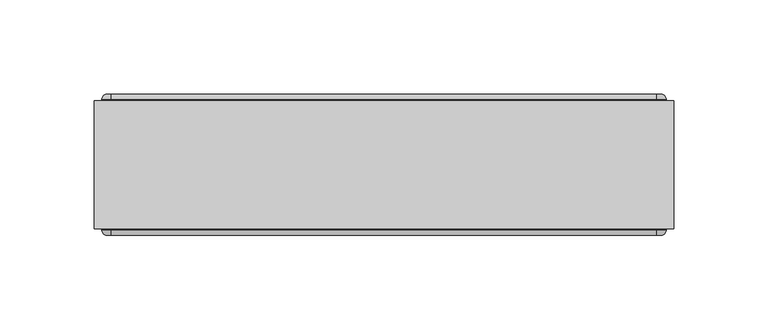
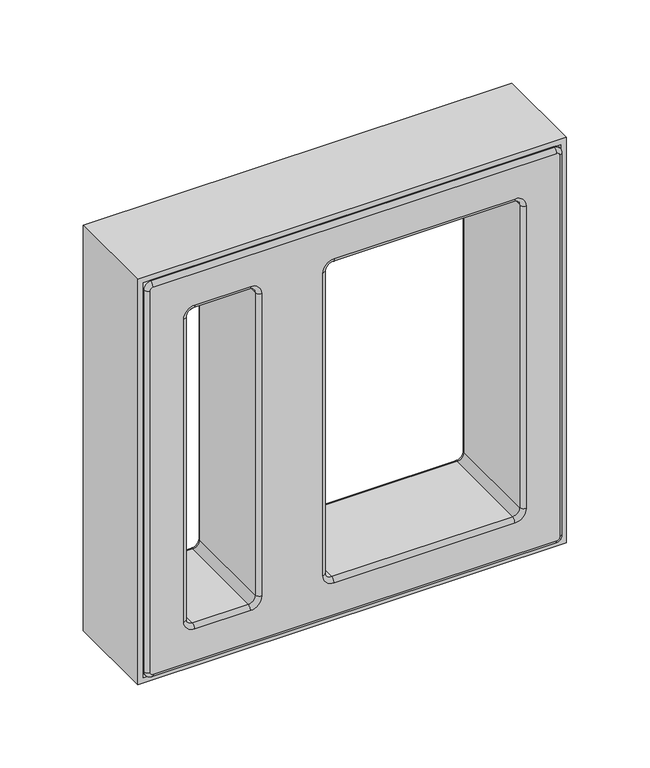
"""IFC4 building model written with IfcOpenShell, lengths in millimetres: proxy geometry, PORTOBELLO - ELEMENTO ASSIM BRANCO 30X30 (COBOGO) : ASSIM BRANCO."""

from ifc_helpers import new_model, si_unit, point, frame, origin, place, context, project, spatial, polyline, circle_curve, ellipse_curve, trimmed, outline, extrude, source, transform, mapped, element, save
from ifc_brep_helpers import plane_surface, cylinder_surface, revolved_surface, advanced_brep


def generic_models_55a6a26f(model_context):
    return source(origin(), model_context, "Body", "SolidModel", [
        advanced_brep(
        [(145.0, -37.5, 7.0), (147.0, -37.5, 9.0), (147.0, -37.5, 299.0), (145.0, -37.5, 301.0), (-145.0, -37.5, 301.0), (-147.0, -37.5, 299.0), (-147.0, -37.5, 9.0), (-145.0, -37.5, 7.0), (-67.0, -37.5, 39.0), (-75.0, -37.5, 31.0), (-115.0, -37.5, 31.0), (-123.0, -37.5, 39.0), (-123.0, -37.5, 269.0), (-115.0, -37.5, 277.0), (-75.0, -37.5, 277.0), (-67.0, -37.5, 269.0), (123.0, -37.5, 39.0), (115.0, -37.5, 31.0), (-15.0, -37.5, 31.0), (-23.0, -37.5, 39.0), (-23.0, -37.5, 269.0), (-15.0, -37.5, 277.0), (115.0, -37.5, 277.0), (123.0, -37.5, 269.0), (147.0, 37.5, 9.0), (145.0, 37.5, 7.0), (-145.0, 37.5, 7.0), (-147.0, 37.5, 9.0), (-147.0, 37.5, 299.0), (-145.0, 37.5, 301.0), (145.0, 37.5, 301.0), (147.0, 37.5, 299.0), (-75.0, 37.5, 31.0), (-67.0, 37.5, 39.0), (-67.0, 37.5, 269.0), (-75.0, 37.5, 277.0), (-115.0, 37.5, 277.0), (-123.0, 37.5, 269.0), (-123.0, 37.5, 39.0), (-115.0, 37.5, 31.0), (115.0, 37.5, 31.0), (123.0, 37.5, 39.0), (123.0, 37.5, 269.0), (115.0, 37.5, 277.0), (-15.0, 37.5, 277.0), (-23.0, 37.5, 269.0), (-23.0, 37.5, 39.0), (-15.0, 37.5, 31.0), (145.0, -34.5000014, 4.0), (145.0, 34.5, 4.0), (150.0, 34.5, 9.0), (150.0, -34.5000025, 9.0), (150.0, 34.5, 299.0), (150.0, -34.5, 299.0), (145.0, 34.5, 304.0), (145.0, -34.5000025, 304.0), (-145.0, 34.5, 304.0), (-145.0, -34.5, 304.0), (-150.0, 34.5, 299.0), (-150.0, -34.5000025, 299.0), (-150.0, 34.5, 9.0), (-150.0, -34.5, 9.0), (-145.0, 34.5, 4.0), (-145.0, -34.5000025, 4.0), (120.0, -34.5000025, 269.0), (120.0, 34.5, 269.0), (120.0, 34.5, 39.0), (120.0, -34.5000016, 39.0), (115.0, 34.5, 34.0), (115.0, -34.5000016, 34.0), (-15.0, 34.5, 34.0), (-15.0, -34.5, 34.0), (-20.0, 34.5, 39.0), (-20.0, -34.5000016, 39.0), (-20.0, 34.5, 269.0), (-20.0, -34.5, 269.0), (-15.0, 34.5, 274.0), (-15.0, -34.5000017, 274.0), (115.0, 34.5, 274.0), (115.0, -34.5, 274.0), (-120.0, -34.5000026, 39.0), (-120.0, 34.5, 39.0), (-120.0, 34.5, 269.0), (-120.0, -34.5, 269.0), (-115.0, 34.5, 274.0), (-115.0, -34.5000017, 274.0), (-75.0, 34.5, 274.0), (-75.0, -34.5, 274.0), (-70.0, 34.5, 269.0), (-70.0, -34.5000018, 269.0), (-70.0, 34.5, 39.0), (-70.0, -34.5000017, 39.0), (-75.0, 34.5, 34.0), (-75.0, -34.5000017, 34.0), (-115.0, 34.5, 34.0), (-115.0, -34.5, 34.0)],
        [
            (0, 1, circle_curve(frame((145.0, -37.5, 9.0), z_axis=(0.0, -1.0, 0.0), x_axis=(0.0, 0.0, -1.0)), 2.0)),
            (1, 2),
            (2, 3, circle_curve(frame((145.0, -37.5, 299.0), z_axis=(0.0, -1.0, 0.0), x_axis=(1.0, 0.0, 0.0)), 2.0)),
            (3, 4),
            (4, 5, circle_curve(frame((-145.0, -37.5, 299.0), z_axis=(0.0, -1.0, 0.0), x_axis=(0.0, 0.0, 1.0)), 2.0)),
            (5, 6),
            (6, 7, circle_curve(frame((-145.0, -37.5, 9.0), z_axis=(0.0, -1.0, 0.0), x_axis=(-1.0, 0.0, 0.0)), 2.0)),
            (7, 0),
            (8, 9, circle_curve(frame((-75.0, -37.5, 39.0), z_axis=(0.0, 1.0, 0.0), x_axis=(1.0, 0.0, 0.0)), 8.0)),
            (9, 10),
            (10, 11, circle_curve(frame((-115.0, -37.5, 39.0), z_axis=(0.0, 1.0, 0.0), x_axis=(0.0, 0.0, -1.0)), 8.0)),
            (11, 12),
            (12, 13, circle_curve(frame((-115.0, -37.5, 269.0), z_axis=(0.0, 1.0, 0.0), x_axis=(-1.0, 0.0, 0.0)), 8.0)),
            (13, 14),
            (14, 15, circle_curve(frame((-75.0, -37.5, 269.0), z_axis=(0.0, 1.0, 0.0), x_axis=(0.0, 0.0, 1.0)), 8.0)),
            (15, 8),
            (16, 17, circle_curve(frame((115.0, -37.5, 39.0), z_axis=(0.0, 1.0, 0.0), x_axis=(1.0, 0.0, 0.0)), 8.0)),
            (17, 18),
            (18, 19, circle_curve(frame((-15.0, -37.5, 39.0), z_axis=(0.0, 1.0, 0.0), x_axis=(0.0, 0.0, -1.0)), 8.0)),
            (19, 20),
            (20, 21, circle_curve(frame((-15.0, -37.5, 269.0), z_axis=(0.0, 1.0, 0.0), x_axis=(-1.0, 0.0, 0.0)), 8.0)),
            (21, 22),
            (22, 23, circle_curve(frame((115.0, -37.5, 269.0), z_axis=(0.0, 1.0, 0.0), x_axis=(0.0, 0.0, 1.0)), 8.0)),
            (23, 16),
            (24, 25, circle_curve(frame((145.0, 37.5, 9.0), z_axis=(0.0, 1.0, 0.0), x_axis=(0.0, 0.0, -1.0)), 2.0)),
            (25, 26),
            (26, 27, circle_curve(frame((-145.0, 37.5, 9.0), z_axis=(0.0, 1.0, 0.0), x_axis=(-1.0, 0.0, 0.0)), 2.0)),
            (27, 28),
            (28, 29, circle_curve(frame((-145.0, 37.5, 299.0), z_axis=(0.0, 1.0, 0.0), x_axis=(0.0, 0.0, 1.0)), 2.0)),
            (29, 30),
            (30, 31, circle_curve(frame((145.0, 37.5, 299.0), z_axis=(0.0, 1.0, 0.0), x_axis=(1.0, 0.0, 0.0)), 2.0)),
            (31, 24),
            (32, 33, circle_curve(frame((-75.0, 37.5, 39.0), z_axis=(0.0, -1.0, 0.0), x_axis=(1.0, 0.0, 0.0)), 8.0)),
            (33, 34),
            (34, 35, circle_curve(frame((-75.0, 37.5, 269.0), z_axis=(0.0, -1.0, 0.0), x_axis=(0.0, 0.0, 1.0)), 8.0)),
            (35, 36),
            (36, 37, circle_curve(frame((-115.0, 37.5, 269.0), z_axis=(0.0, -1.0, 0.0), x_axis=(-1.0, 0.0, 0.0)), 8.0)),
            (37, 38),
            (38, 39, circle_curve(frame((-115.0, 37.5, 39.0), z_axis=(0.0, -1.0, 0.0), x_axis=(0.0, 0.0, -1.0)), 8.0)),
            (39, 32),
            (40, 41, circle_curve(frame((115.0, 37.5, 39.0), z_axis=(0.0, -1.0, 0.0), x_axis=(1.0, 0.0, 0.0)), 8.0)),
            (41, 42),
            (42, 43, circle_curve(frame((115.0, 37.5, 269.0), z_axis=(0.0, -1.0, 0.0), x_axis=(0.0, 0.0, 1.0)), 8.0)),
            (43, 44),
            (44, 45, circle_curve(frame((-15.0, 37.5, 269.0), z_axis=(0.0, -1.0, 0.0), x_axis=(-1.0, 0.0, 0.0)), 8.0)),
            (45, 46),
            (46, 47, circle_curve(frame((-15.0, 37.5, 39.0), z_axis=(0.0, -1.0, 0.0), x_axis=(0.0, 0.0, -1.0)), 8.0)),
            (47, 40),
            (48, 49),
            (49, 50, circle_curve(frame((145.0, 34.5, 9.0), z_axis=(0.0, -1.0, 0.0), x_axis=(-1.0, 0.0, 0.0)), 5.0)),
            (50, 51),
            (51, 48, circle_curve(frame((145.0, -34.5, 9.0), z_axis=(0.0, 1.0, 0.0), x_axis=(-1.0, 0.0, 0.0)), 5.0)),
            (50, 52),
            (52, 53),
            (53, 51),
            (52, 54, circle_curve(frame((145.0, 34.5, 299.0), z_axis=(0.0, -1.0, 0.0), x_axis=(-1.0, 0.0, 0.0)), 5.0)),
            (54, 55),
            (55, 53, circle_curve(frame((145.0, -34.5, 299.0), z_axis=(0.0, 1.0, 0.0), x_axis=(-1.0, 0.0, 0.0)), 5.0)),
            (54, 56),
            (56, 57),
            (57, 55),
            (56, 58, circle_curve(frame((-145.0, 34.5, 299.0), z_axis=(0.0, -1.0, 0.0), x_axis=(-1.0, 0.0, 0.0)), 5.0)),
            (58, 59),
            (59, 57, circle_curve(frame((-145.0, -34.5, 299.0), z_axis=(0.0, 1.0, 0.0), x_axis=(-1.0, 0.0, 0.0)), 5.0)),
            (58, 60),
            (60, 61),
            (61, 59),
            (60, 62, circle_curve(frame((-145.0, 34.5, 9.0), z_axis=(0.0, -1.0, 0.0), x_axis=(-1.0, 0.0, 0.0)), 5.0)),
            (62, 63),
            (63, 61, circle_curve(frame((-145.0, -34.5, 9.0), z_axis=(0.0, 1.0, 0.0), x_axis=(-1.0, 0.0, 0.0)), 5.0)),
            (48, 63),
            (62, 49),
            (64, 65),
            (65, 66),
            (66, 67),
            (67, 64),
            (66, 68, circle_curve(frame((115.0, 34.5, 39.0), z_axis=(0.0, 1.0, 0.0), x_axis=(-1.0, 0.0, 0.0)), 5.0)),
            (68, 69),
            (69, 67, circle_curve(frame((115.0, -34.5, 39.0), z_axis=(0.0, -1.0, 0.0), x_axis=(-1.0, 0.0, 0.0)), 5.0)),
            (68, 70),
            (70, 71),
            (71, 69),
            (70, 72, circle_curve(frame((-15.0, 34.5, 39.0), z_axis=(0.0, 1.0, 0.0), x_axis=(-1.0, 0.0, 0.0)), 5.0)),
            (72, 73),
            (73, 71, circle_curve(frame((-15.0, -34.5, 39.0), z_axis=(0.0, -1.0, 0.0), x_axis=(-1.0, 0.0, 0.0)), 5.0)),
            (72, 74),
            (74, 75),
            (75, 73),
            (74, 76, circle_curve(frame((-15.0, 34.5, 269.0), z_axis=(0.0, 1.0, 0.0), x_axis=(-1.0, 0.0, 0.0)), 5.0)),
            (76, 77),
            (77, 75, circle_curve(frame((-15.0, -34.5, 269.0), z_axis=(0.0, -1.0, 0.0), x_axis=(-1.0, 0.0, 0.0)), 5.0)),
            (76, 78),
            (78, 79),
            (79, 77),
            (64, 79, circle_curve(frame((115.0, -34.5, 269.0), z_axis=(0.0, -1.0, 0.0), x_axis=(-1.0, 0.0, 0.0)), 5.0)),
            (78, 65, circle_curve(frame((115.0, 34.5, 269.0), z_axis=(0.0, 1.0, 0.0), x_axis=(-1.0, 0.0, 0.0)), 5.0)),
            (80, 81),
            (81, 82),
            (82, 83),
            (83, 80),
            (82, 84, circle_curve(frame((-115.0, 34.5, 269.0), z_axis=(0.0, 1.0, 0.0), x_axis=(-1.0, 0.0, 0.0)), 5.0)),
            (84, 85),
            (85, 83, circle_curve(frame((-115.0, -34.5, 269.0), z_axis=(0.0, -1.0, 0.0), x_axis=(-1.0, 0.0, 0.0)), 5.0)),
            (84, 86),
            (86, 87),
            (87, 85),
            (86, 88, circle_curve(frame((-75.0, 34.5, 269.0), z_axis=(0.0, 1.0, 0.0), x_axis=(-1.0, 0.0, 0.0)), 5.0)),
            (88, 89),
            (89, 87, circle_curve(frame((-75.0, -34.5, 269.0), z_axis=(0.0, -1.0, 0.0), x_axis=(-1.0, 0.0, 0.0)), 5.0)),
            (88, 90),
            (90, 91),
            (91, 89),
            (90, 92, circle_curve(frame((-75.0, 34.5, 39.0), z_axis=(0.0, 1.0, 0.0), x_axis=(-1.0, 0.0, 0.0)), 5.0)),
            (92, 93),
            (93, 91, circle_curve(frame((-75.0, -34.5, 39.0), z_axis=(0.0, -1.0, 0.0), x_axis=(-1.0, 0.0, 0.0)), 5.0)),
            (92, 94),
            (94, 95),
            (95, 93),
            (80, 95, circle_curve(frame((-115.0, -34.5, 39.0), z_axis=(0.0, -1.0, 0.0), x_axis=(-1.0, 0.0, 0.0)), 5.0)),
            (94, 81, circle_curve(frame((-115.0, 34.5, 39.0), z_axis=(0.0, 1.0, 0.0), x_axis=(-1.0, 0.0, 0.0)), 5.0)),
            (51, 1, circle_curve(frame((147.0, -34.5, 9.0), z_axis=(0.0, 0.0, -1.0), x_axis=(0.0, -1.0, 0.0)), 3.0)),
            (0, 48, circle_curve(frame((145.0, -34.5, 7.0), z_axis=(1.0, 0.0, 0.0), x_axis=(0.0, -1.0, 0.0)), 3.0)),
            (53, 2, circle_curve(frame((147.0, -34.5, 299.0), z_axis=(0.0, 0.0, -1.0), x_axis=(0.0, -1.0, 0.0)), 3.0)),
            (55, 3, circle_curve(frame((145.0, -34.5, 301.0), z_axis=(1.0, 0.0, 0.0), x_axis=(0.0, -1.0, 0.0)), 3.0)),
            (57, 4, circle_curve(frame((-145.0, -34.5, 301.0), z_axis=(1.0, 0.0, 0.0), x_axis=(0.0, -1.0, 0.0)), 3.0)),
            (59, 5, circle_curve(frame((-147.0, -34.5, 299.0), z_axis=(0.0, 0.0, 1.0), x_axis=(0.0, -1.0, 0.0)), 3.0)),
            (61, 6, circle_curve(frame((-147.0, -34.5, 9.0), z_axis=(0.0, 0.0, 1.0), x_axis=(0.0, -1.0, 0.0)), 3.0)),
            (63, 7, circle_curve(frame((-145.0, -34.5, 7.0), z_axis=(-1.0, 0.0, 0.0), x_axis=(0.0, -1.0, 0.0)), 3.0)),
            (24, 50, circle_curve(frame((147.0, 34.5, 9.0), z_axis=(0.0, 0.0, -1.0), x_axis=(0.0, -1.0, 0.0)), 3.0)),
            (49, 25, circle_curve(frame((145.0, 34.5, 7.0), z_axis=(1.0, 0.0, 0.0), x_axis=(0.0, -1.0, 0.0)), 3.0)),
            (31, 52, circle_curve(frame((147.0, 34.5, 299.0), z_axis=(0.0, 0.0, -1.0), x_axis=(0.0, -1.0, 0.0)), 3.0)),
            (30, 54, circle_curve(frame((145.0, 34.5, 301.0), z_axis=(1.0, 0.0, 0.0), x_axis=(0.0, -1.0, 0.0)), 3.0)),
            (29, 56, circle_curve(frame((-145.0, 34.5, 301.0), z_axis=(1.0, 0.0, 0.0), x_axis=(0.0, -1.0, 0.0)), 3.0)),
            (28, 58, circle_curve(frame((-147.0, 34.5, 299.0), z_axis=(0.0, 0.0, 1.0), x_axis=(0.0, -1.0, 0.0)), 3.0)),
            (27, 60, circle_curve(frame((-147.0, 34.5, 9.0), z_axis=(0.0, 0.0, 1.0), x_axis=(0.0, -1.0, 0.0)), 3.0)),
            (26, 62, circle_curve(frame((-145.0, 34.5, 7.0), z_axis=(-1.0, 0.0, 0.0), x_axis=(0.0, -1.0, 0.0)), 3.0)),
            (93, 9, circle_curve(frame((-75.0, -34.5, 31.0), z_axis=(1.0, 0.0, 0.0), x_axis=(0.0, 0.0, 1.0)), 3.0)),
            (8, 91, circle_curve(frame((-67.0, -34.5, 39.0), z_axis=(0.0, 0.0, -1.0), x_axis=(-1.0, 0.0, 0.0)), 3.0)),
            (32, 92, circle_curve(frame((-75.0, 34.5, 31.0), z_axis=(1.0, 0.0, 0.0), x_axis=(0.0, 0.0, 1.0)), 3.0)),
            (90, 33, circle_curve(frame((-67.0, 34.5, 39.0), z_axis=(0.0, 0.0, -1.0), x_axis=(-1.0, 0.0, 0.0)), 3.0)),
            (95, 10, circle_curve(frame((-115.0, -34.5, 31.0), z_axis=(1.0, 0.0, 0.0), x_axis=(0.0, 0.0, 1.0)), 3.0)),
            (39, 94, circle_curve(frame((-115.0, 34.5, 31.0), z_axis=(1.0, 0.0, 0.0), x_axis=(0.0, 0.0, 1.0)), 3.0)),
            (80, 11, circle_curve(frame((-123.0, -34.5, 39.0), z_axis=(0.0, 0.0, -1.0), x_axis=(1.0, 0.0, 0.0)), 3.0)),
            (38, 81, circle_curve(frame((-123.0, 34.5, 39.0), z_axis=(0.0, 0.0, -1.0), x_axis=(1.0, 0.0, 0.0)), 3.0)),
            (83, 12, circle_curve(frame((-123.0, -34.5, 269.0), z_axis=(0.0, 0.0, -1.0), x_axis=(1.0, 0.0, 0.0)), 3.0)),
            (37, 82, circle_curve(frame((-123.0, 34.5, 269.0), z_axis=(0.0, 0.0, -1.0), x_axis=(1.0, 0.0, 0.0)), 3.0)),
            (85, 13, circle_curve(frame((-115.0, -34.5, 277.0), z_axis=(-1.0, 0.0, 0.0), x_axis=(0.0, 0.0, -1.0)), 3.0)),
            (36, 84, circle_curve(frame((-115.0, 34.5, 277.0), z_axis=(-1.0, 0.0, 0.0), x_axis=(0.0, 0.0, -1.0)), 3.0)),
            (87, 14, circle_curve(frame((-75.0, -34.5, 277.0), z_axis=(-1.0, 0.0, 0.0), x_axis=(0.0, 0.0, -1.0)), 3.0)),
            (35, 86, circle_curve(frame((-75.0, 34.5, 277.0), z_axis=(-1.0, 0.0, 0.0), x_axis=(0.0, 0.0, -1.0)), 3.0)),
            (89, 15, circle_curve(frame((-67.0, -34.5, 269.0), z_axis=(0.0, 0.0, 1.0), x_axis=(-1.0, 0.0, 0.0)), 3.0)),
            (34, 88, circle_curve(frame((-67.0, 34.5, 269.0), z_axis=(0.0, 0.0, 1.0), x_axis=(-1.0, 0.0, 0.0)), 3.0)),
            (69, 17, circle_curve(frame((115.0, -34.5, 31.0), z_axis=(1.0, 0.0, 0.0), x_axis=(0.0, 0.0, 1.0)), 3.0)),
            (16, 67, circle_curve(frame((123.0, -34.5, 39.0), z_axis=(0.0, 0.0, -1.0), x_axis=(-1.0, 0.0, 0.0)), 3.0)),
            (71, 18, circle_curve(frame((-15.0, -34.5, 31.0), z_axis=(1.0, 0.0, 0.0), x_axis=(0.0, 0.0, 1.0)), 3.0)),
            (73, 19, circle_curve(frame((-23.0, -34.5, 39.0), z_axis=(0.0, 0.0, -1.0), x_axis=(1.0, 0.0, 0.0)), 3.0)),
            (75, 20, circle_curve(frame((-23.0, -34.5, 269.0), z_axis=(0.0, 0.0, -1.0), x_axis=(1.0, 0.0, 0.0)), 3.0)),
            (77, 21, circle_curve(frame((-15.0, -34.5, 277.0), z_axis=(-1.0, 0.0, 0.0), x_axis=(0.0, 0.0, -1.0)), 3.0)),
            (79, 22, circle_curve(frame((115.0, -34.5, 277.0), z_axis=(-1.0, 0.0, 0.0), x_axis=(0.0, 0.0, -1.0)), 3.0)),
            (64, 23, circle_curve(frame((123.0, -34.5, 269.0), z_axis=(0.0, 0.0, 1.0), x_axis=(-1.0, 0.0, 0.0)), 3.0)),
            (40, 68, circle_curve(frame((115.0, 34.5, 31.0), z_axis=(1.0, 0.0, 0.0), x_axis=(0.0, 0.0, 1.0)), 3.0)),
            (66, 41, circle_curve(frame((123.0, 34.5, 39.0), z_axis=(0.0, 0.0, -1.0), x_axis=(-1.0, 0.0, 0.0)), 3.0)),
            (47, 70, circle_curve(frame((-15.0, 34.5, 31.0), z_axis=(1.0, 0.0, 0.0), x_axis=(0.0, 0.0, 1.0)), 3.0)),
            (46, 72, circle_curve(frame((-23.0, 34.5, 39.0), z_axis=(0.0, 0.0, -1.0), x_axis=(1.0, 0.0, 0.0)), 3.0)),
            (45, 74, circle_curve(frame((-23.0, 34.5, 269.0), z_axis=(0.0, 0.0, -1.0), x_axis=(1.0, 0.0, 0.0)), 3.0)),
            (44, 76, circle_curve(frame((-15.0, 34.5, 277.0), z_axis=(-1.0, 0.0, 0.0), x_axis=(0.0, 0.0, -1.0)), 3.0)),
            (43, 78, circle_curve(frame((115.0, 34.5, 277.0), z_axis=(-1.0, 0.0, 0.0), x_axis=(0.0, 0.0, -1.0)), 3.0)),
            (42, 65, circle_curve(frame((123.0, 34.5, 269.0), z_axis=(0.0, 0.0, 1.0), x_axis=(-1.0, 0.0, 0.0)), 3.0)),
        ],
        [
            plane_surface(frame((140.0, -37.5, 9.0), z_axis=(0.0, -1.0, 0.0), x_axis=(0.0, 0.0, -1.0))),
            plane_surface(frame((140.0, 37.5, 9.0), z_axis=(0.0, 1.0, 0.0), x_axis=(0.0, 0.0, 1.0))),
            cylinder_surface(frame((145.0, 37.5, 9.0), z_axis=(0.0, -1.0, 0.0), x_axis=(-1.0, 0.0, 0.0)), 5.0),
            plane_surface(frame((150.0, -37.5, 9.0), z_axis=(1.0, 0.0, 0.0), x_axis=(0.0, 1.0, 0.0))),
            cylinder_surface(frame((145.0, 37.5, 299.0), z_axis=(0.0, -1.0, 0.0), x_axis=(-1.0, 0.0, 0.0)), 5.0),
            plane_surface(frame((145.0, -37.5, 304.0), z_axis=(0.0, 0.0, 1.0), x_axis=(0.0, 1.0, 0.0))),
            cylinder_surface(frame((-145.0, 37.5, 299.0), z_axis=(0.0, -1.0, 0.0), x_axis=(-1.0, 0.0, 0.0)), 5.0),
            plane_surface(frame((-150.0, -37.5, 299.0), z_axis=(-1.0, 0.0, 0.0), x_axis=(0.0, 1.0, 0.0))),
            cylinder_surface(frame((-145.0, 37.5, 9.0), z_axis=(0.0, -1.0, 0.0), x_axis=(-1.0, 0.0, 0.0)), 5.0),
            plane_surface(frame((-145.0, -37.5, 4.0), z_axis=(0.0, 0.0, -1.0), x_axis=(0.0, 1.0, 0.0))),
            plane_surface(frame((120.0, -37.5, 269.0), z_axis=(-1.0, 0.0, 0.0), x_axis=(0.0, 1.0, 0.0))),
            revolved_surface(polyline([(110.0, 34.5, 39.0), (110.0, -34.5000016, 39.0)]), (115.0, 0.0, 39.0), (0.0, 1.0, 0.0)),
            plane_surface(frame((115.0, -37.5, 34.0), z_axis=(0.0, 0.0, 1.0), x_axis=(0.0, 1.0, 0.0))),
            revolved_surface(polyline([(-20.0, 34.5, 39.0), (-20.0, -34.5000016, 39.0)]), (-15.0, 0.0, 39.0), (0.0, 1.0, 0.0)),
            plane_surface(frame((-20.0, -37.5, 39.0), z_axis=(1.0, 0.0, 0.0), x_axis=(0.0, 1.0, 0.0))),
            revolved_surface(polyline([(-20.0, 34.5, 269.0), (-20.0, -34.5000017, 269.0)]), (-15.0, 0.0, 269.0), (0.0, 1.0, 0.0)),
            plane_surface(frame((-15.0, -37.5, 274.0), z_axis=(0.0, 0.0, -1.0), x_axis=(0.0, 1.0, 0.0))),
            revolved_surface(polyline([(110.0, 34.5, 269.0), (110.0, -34.5000025, 269.0)]), (115.0, 0.0, 269.0), (0.0, 1.0, 0.0)),
            plane_surface(frame((-120.0, -37.5, 39.0), z_axis=(1.0, 0.0, 0.0), x_axis=(0.0, 1.0, 0.0))),
            revolved_surface(polyline([(-120.0, 34.5, 269.0), (-120.0, -34.5000017, 269.0)]), (-115.0, 0.0, 269.0), (0.0, 1.0, 0.0)),
            plane_surface(frame((-115.0, -37.5, 274.0), z_axis=(0.0, 0.0, -1.0), x_axis=(0.0, 1.0, 0.0))),
            revolved_surface(polyline([(-80.0, 34.5, 269.0), (-80.0, -34.5000018, 269.0)]), (-75.0, 0.0, 269.0), (0.0, 1.0, 0.0)),
            plane_surface(frame((-70.0, -37.5, 269.0), z_axis=(-1.0, 0.0, 0.0), x_axis=(0.0, 1.0, 0.0))),
            revolved_surface(polyline([(-80.0, 34.5, 39.0), (-80.0, -34.5000017, 39.0)]), (-75.0, 0.0, 39.0), (0.0, 1.0, 0.0)),
            plane_surface(frame((-75.0, -37.5, 34.0), z_axis=(0.0, 0.0, 1.0), x_axis=(0.0, 1.0, 0.0))),
            revolved_surface(polyline([(-120.0, 34.5, 39.0), (-120.0, -34.5000026, 39.0)]), (-115.0, 0.0, 39.0), (0.0, 1.0, 0.0)),
            revolved_surface(trimmed(ellipse_curve(frame((145.0, -34.5, 7.0), z_axis=(-1.0, 0.0, 0.0), x_axis=(0.0, -1.0, 0.0)), 3.0, 3.0), [point((145.0, -34.5, 4.0))], [point((145.0, -37.5, 7.0))], True, "CARTESIAN"), (145.0, -37.5, 9.0), (0.0, -1.0, 0.0)),
            cylinder_surface(frame((147.0, -34.5, 9.0), z_axis=(0.0, 0.0, 1.0), x_axis=(0.0, -1.0, 0.0)), 3.0),
            revolved_surface(trimmed(ellipse_curve(frame((147.0, -34.5, 299.0), z_axis=(0.0, 0.0, -1.0), x_axis=(0.0, -1.0, 0.0)), 3.0, 3.0), [point((150.0, -34.5, 299.0))], [point((147.0, -37.5, 299.0))], True, "CARTESIAN"), (145.0, -37.5, 299.0), (0.0, -1.0, 0.0)),
            cylinder_surface(frame((145.0, -34.5, 301.0), z_axis=(-1.0, 0.0, 0.0), x_axis=(0.0, -1.0, 0.0)), 3.0),
            revolved_surface(trimmed(ellipse_curve(frame((-145.0, -34.5, 301.0), z_axis=(1.0, 0.0, 0.0), x_axis=(0.0, -1.0, 0.0)), 3.0, 3.0), [point((-145.0, -34.5, 304.0))], [point((-145.0, -37.5, 301.0))], True, "CARTESIAN"), (-145.0, -37.5, 299.0), (0.0, -1.0, 0.0)),
            cylinder_surface(frame((-147.0, -34.5, 299.0), z_axis=(0.0, 0.0, -1.0), x_axis=(0.0, -1.0, 0.0)), 3.0),
            revolved_surface(trimmed(ellipse_curve(frame((-147.0, -34.5, 9.0), z_axis=(0.0, 0.0, 1.0), x_axis=(0.0, -1.0, 0.0)), 3.0, 3.0), [point((-150.0, -34.5, 9.0))], [point((-147.0, -37.5, 9.0))], True, "CARTESIAN"), (-145.0, -37.5, 9.0), (0.0, -1.0, 0.0)),
            cylinder_surface(frame((-145.0, -34.5, 7.0), z_axis=(1.0, 0.0, 0.0), x_axis=(0.0, -1.0, 0.0)), 3.0),
            revolved_surface(trimmed(ellipse_curve(frame((145.0, 34.5, 7.0), z_axis=(-1.0, 0.0, 0.0), x_axis=(0.0, -1.0, 0.0)), 3.0, 3.0), [point((145.0, 37.5, 7.0))], [point((145.0, 34.5, 4.0))], True, "CARTESIAN"), (145.0, -37.5, 9.0), (0.0, -1.0, 0.0)),
            cylinder_surface(frame((147.0, 34.5, 9.0), z_axis=(0.0, 0.0, 1.0), x_axis=(0.0, -1.0, 0.0)), 3.0),
            revolved_surface(trimmed(ellipse_curve(frame((147.0, 34.5, 299.0), z_axis=(0.0, 0.0, -1.0), x_axis=(0.0, -1.0, 0.0)), 3.0, 3.0), [point((147.0, 37.5, 299.0))], [point((150.0, 34.5, 299.0))], True, "CARTESIAN"), (145.0, -37.5, 299.0), (0.0, -1.0, 0.0)),
            cylinder_surface(frame((145.0, 34.5, 301.0), z_axis=(-1.0, 0.0, 0.0), x_axis=(0.0, -1.0, 0.0)), 3.0),
            revolved_surface(trimmed(ellipse_curve(frame((-145.0, 34.5, 301.0), z_axis=(1.0, 0.0, 0.0), x_axis=(0.0, -1.0, 0.0)), 3.0, 3.0), [point((-145.0, 37.5, 301.0))], [point((-145.0, 34.5, 304.0))], True, "CARTESIAN"), (-145.0, -37.5, 299.0), (0.0, -1.0, 0.0)),
            cylinder_surface(frame((-147.0, 34.5, 299.0), z_axis=(0.0, 0.0, -1.0), x_axis=(0.0, -1.0, 0.0)), 3.0),
            revolved_surface(trimmed(ellipse_curve(frame((-147.0, 34.5, 9.0), z_axis=(0.0, 0.0, 1.0), x_axis=(0.0, -1.0, 0.0)), 3.0, 3.0), [point((-147.0, 37.5, 9.0))], [point((-150.0, 34.5, 9.0))], True, "CARTESIAN"), (-145.0, -37.5, 9.0), (0.0, -1.0, 0.0)),
            cylinder_surface(frame((-145.0, 34.5, 7.0), z_axis=(1.0, 0.0, 0.0), x_axis=(0.0, -1.0, 0.0)), 3.0),
            revolved_surface(trimmed(ellipse_curve(frame((-67.0, -34.5, 39.0), z_axis=(0.0, 0.0, 1.0), x_axis=(-1.0, 0.0, 0.0)), 3.0, 3.0), [point((-70.0, -34.5, 39.0))], [point((-67.0, -37.5, 39.0))], True, "CARTESIAN"), (-75.0, -37.5, 39.0), (0.0, 1.0, 0.0)),
            revolved_surface(trimmed(ellipse_curve(frame((-67.0, 34.5, 39.0), z_axis=(0.0, 0.0, 1.0), x_axis=(-1.0, 0.0, 0.0)), 3.0, 3.0), [point((-67.0, 37.5, 39.0))], [point((-70.0, 34.5, 39.0))], True, "CARTESIAN"), (-75.0, -37.5, 39.0), (0.0, 1.0, 0.0)),
            cylinder_surface(frame((-75.0, -34.5, 31.0), z_axis=(-1.0, 0.0, 0.0), x_axis=(0.0, 0.0, 1.0)), 3.0),
            cylinder_surface(frame((-75.0, 34.5, 31.0), z_axis=(-1.0, 0.0, 0.0), x_axis=(0.0, 0.0, 1.0)), 3.0),
            revolved_surface(trimmed(ellipse_curve(frame((-115.0, -34.5, 31.0), z_axis=(1.0, 0.0, 0.0), x_axis=(0.0, 0.0, 1.0)), 3.0, 3.0), [point((-115.0, -34.5, 34.0))], [point((-115.0, -37.5, 31.0))], True, "CARTESIAN"), (-115.0, -37.5, 39.0), (0.0, 1.0, 0.0)),
            revolved_surface(trimmed(ellipse_curve(frame((-115.0, 34.5, 31.0), z_axis=(1.0, 0.0, 0.0), x_axis=(0.0, 0.0, 1.0)), 3.0, 3.0), [point((-115.0, 37.5, 31.0))], [point((-115.0, 34.5, 34.0))], True, "CARTESIAN"), (-115.0, -37.5, 39.0), (0.0, 1.0, 0.0)),
            cylinder_surface(frame((-123.0, -34.5, 39.0), z_axis=(0.0, 0.0, 1.0), x_axis=(1.0, 0.0, 0.0)), 3.0),
            cylinder_surface(frame((-123.0, 34.5, 39.0), z_axis=(0.0, 0.0, 1.0), x_axis=(1.0, 0.0, 0.0)), 3.0),
            revolved_surface(trimmed(ellipse_curve(frame((-123.0, -34.5, 269.0), z_axis=(0.0, 0.0, -1.0), x_axis=(1.0, 0.0, 0.0)), 3.0, 3.0), [point((-120.0, -34.5, 269.0))], [point((-123.0, -37.5, 269.0))], True, "CARTESIAN"), (-115.0, -37.5, 269.0), (0.0, 1.0, 0.0)),
            revolved_surface(trimmed(ellipse_curve(frame((-123.0, 34.5, 269.0), z_axis=(0.0, 0.0, -1.0), x_axis=(1.0, 0.0, 0.0)), 3.0, 3.0), [point((-123.0, 37.5, 269.0))], [point((-120.0, 34.5, 269.0))], True, "CARTESIAN"), (-115.0, -37.5, 269.0), (0.0, 1.0, 0.0)),
            cylinder_surface(frame((-115.0, -34.5, 277.0), z_axis=(1.0, 0.0, 0.0), x_axis=(0.0, 0.0, -1.0)), 3.0),
            cylinder_surface(frame((-115.0, 34.5, 277.0), z_axis=(1.0, 0.0, 0.0), x_axis=(0.0, 0.0, -1.0)), 3.0),
            revolved_surface(trimmed(ellipse_curve(frame((-75.0, -34.5, 277.0), z_axis=(-1.0, 0.0, 0.0), x_axis=(0.0, 0.0, -1.0)), 3.0, 3.0), [point((-75.0, -34.5, 274.0))], [point((-75.0, -37.5, 277.0))], True, "CARTESIAN"), (-75.0, -37.5, 269.0), (0.0, 1.0, 0.0)),
            revolved_surface(trimmed(ellipse_curve(frame((-75.0, 34.5, 277.0), z_axis=(-1.0, 0.0, 0.0), x_axis=(0.0, 0.0, -1.0)), 3.0, 3.0), [point((-75.0, 37.5, 277.0))], [point((-75.0, 34.5, 274.0))], True, "CARTESIAN"), (-75.0, -37.5, 269.0), (0.0, 1.0, 0.0)),
            cylinder_surface(frame((-67.0, -34.5, 269.0), z_axis=(0.0, 0.0, -1.0), x_axis=(-1.0, 0.0, 0.0)), 3.0),
            cylinder_surface(frame((-67.0, 34.5, 269.0), z_axis=(0.0, 0.0, -1.0), x_axis=(-1.0, 0.0, 0.0)), 3.0),
            revolved_surface(trimmed(ellipse_curve(frame((123.0, -34.5, 39.0), z_axis=(0.0, 0.0, 1.0), x_axis=(-1.0, 0.0, 0.0)), 3.0, 3.0), [point((120.0, -34.5, 39.0))], [point((123.0, -37.5, 39.0))], True, "CARTESIAN"), (115.0, -37.5, 39.0), (0.0, 1.0, 0.0)),
            cylinder_surface(frame((115.0, -34.5, 31.0), z_axis=(-1.0, 0.0, 0.0), x_axis=(0.0, 0.0, 1.0)), 3.0),
            revolved_surface(trimmed(ellipse_curve(frame((-15.0, -34.5, 31.0), z_axis=(1.0, 0.0, 0.0), x_axis=(0.0, 0.0, 1.0)), 3.0, 3.0), [point((-15.0, -34.5, 34.0))], [point((-15.0, -37.5, 31.0))], True, "CARTESIAN"), (-15.0, -37.5, 39.0), (0.0, 1.0, 0.0)),
            cylinder_surface(frame((-23.0, -34.5, 39.0), z_axis=(0.0, 0.0, 1.0), x_axis=(1.0, 0.0, 0.0)), 3.0),
            revolved_surface(trimmed(ellipse_curve(frame((-23.0, -34.5, 269.0), z_axis=(0.0, 0.0, -1.0), x_axis=(1.0, 0.0, 0.0)), 3.0, 3.0), [point((-20.0, -34.5, 269.0))], [point((-23.0, -37.5, 269.0))], True, "CARTESIAN"), (-15.0, -37.5, 269.0), (0.0, 1.0, 0.0)),
            cylinder_surface(frame((-15.0, -34.5, 277.0), z_axis=(1.0, 0.0, 0.0), x_axis=(0.0, 0.0, -1.0)), 3.0),
            revolved_surface(trimmed(ellipse_curve(frame((115.0, -34.5, 277.0), z_axis=(-1.0, 0.0, 0.0), x_axis=(0.0, 0.0, -1.0)), 3.0, 3.0), [point((115.0, -34.5, 274.0))], [point((115.0, -37.5, 277.0))], True, "CARTESIAN"), (115.0, -37.5, 269.0), (0.0, 1.0, 0.0)),
            cylinder_surface(frame((123.0, -34.5, 269.0), z_axis=(0.0, 0.0, -1.0), x_axis=(-1.0, 0.0, 0.0)), 3.0),
            revolved_surface(trimmed(ellipse_curve(frame((123.0, 34.5, 39.0), z_axis=(0.0, 0.0, 1.0), x_axis=(-1.0, 0.0, 0.0)), 3.0, 3.0), [point((123.0, 37.5, 39.0))], [point((120.0, 34.5, 39.0))], True, "CARTESIAN"), (115.0, -37.5, 39.0), (0.0, 1.0, 0.0)),
            cylinder_surface(frame((115.0, 34.5, 31.0), z_axis=(-1.0, 0.0, 0.0), x_axis=(0.0, 0.0, 1.0)), 3.0),
            revolved_surface(trimmed(ellipse_curve(frame((-15.0, 34.5, 31.0), z_axis=(1.0, 0.0, 0.0), x_axis=(0.0, 0.0, 1.0)), 3.0, 3.0), [point((-15.0, 37.5, 31.0))], [point((-15.0, 34.5, 34.0))], True, "CARTESIAN"), (-15.0, -37.5, 39.0), (0.0, 1.0, 0.0)),
            cylinder_surface(frame((-23.0, 34.5, 39.0), z_axis=(0.0, 0.0, 1.0), x_axis=(1.0, 0.0, 0.0)), 3.0),
            revolved_surface(trimmed(ellipse_curve(frame((-23.0, 34.5, 269.0), z_axis=(0.0, 0.0, -1.0), x_axis=(1.0, 0.0, 0.0)), 3.0, 3.0), [point((-23.0, 37.5, 269.0))], [point((-20.0, 34.5, 269.0))], True, "CARTESIAN"), (-15.0, -37.5, 269.0), (0.0, 1.0, 0.0)),
            cylinder_surface(frame((-15.0, 34.5, 277.0), z_axis=(1.0, 0.0, 0.0), x_axis=(0.0, 0.0, -1.0)), 3.0),
            revolved_surface(trimmed(ellipse_curve(frame((115.0, 34.5, 277.0), z_axis=(-1.0, 0.0, 0.0), x_axis=(0.0, 0.0, -1.0)), 3.0, 3.0), [point((115.0, 37.5, 277.0))], [point((115.0, 34.5, 274.0))], True, "CARTESIAN"), (115.0, -37.5, 269.0), (0.0, 1.0, 0.0)),
            cylinder_surface(frame((123.0, 34.5, 269.0), z_axis=(0.0, 0.0, -1.0), x_axis=(-1.0, 0.0, 0.0)), 3.0),
        ],
        [
            (0, [[1, 2, 3, 4, 5, 6, 7, 8], [9, 10, 11, 12, 13, 14, 15, 16], [17, 18, 19, 20, 21, 22, 23, 24]]),
            (1, [[25, 26, 27, 28, 29, 30, 31, 32], [33, 34, 35, 36, 37, 38, 39, 40], [41, 42, 43, 44, 45, 46, 47, 48]]),
            (2, [[49, 50, 51, 52]]),
            (3, [[-51, 53, 54, 55]]),
            (4, [[-54, 56, 57, 58]]),
            (5, [[-57, 59, 60, 61]]),
            (6, [[-60, 62, 63, 64]]),
            (7, [[-63, 65, 66, 67]]),
            (8, [[-66, 68, 69, 70]]),
            (9, [[-49, 71, -69, 72]]),
            (10, [[73, 74, 75, 76]]),
            (11, [[-75, 77, 78, 79]]),
            (12, [[-78, 80, 81, 82]]),
            (13, [[-81, 83, 84, 85]]),
            (14, [[-84, 86, 87, 88]]),
            (15, [[-87, 89, 90, 91]]),
            (16, [[-90, 92, 93, 94]]),
            (17, [[-73, 95, -93, 96]]),
            (18, [[97, 98, 99, 100]]),
            (19, [[-99, 101, 102, 103]]),
            (20, [[-102, 104, 105, 106]]),
            (21, [[-105, 107, 108, 109]]),
            (22, [[-108, 110, 111, 112]]),
            (23, [[-111, 113, 114, 115]]),
            (24, [[-114, 116, 117, 118]]),
            (25, [[-97, 119, -117, 120]]),
            (26, [[121, -1, 122, -52]]),
            (27, [[-121, -55, 123, -2]]),
            (28, [[-123, -58, 124, -3]]),
            (29, [[-124, -61, 125, -4]]),
            (30, [[-125, -64, 126, -5]]),
            (31, [[-126, -67, 127, -6]]),
            (32, [[-127, -70, 128, -7]]),
            (33, [[-122, -8, -128, -71]]),
            (34, [[129, -50, 130, -25]]),
            (35, [[-129, -32, 131, -53]]),
            (36, [[-131, -31, 132, -56]]),
            (37, [[-132, -30, 133, -59]]),
            (38, [[-133, -29, 134, -62]]),
            (39, [[-134, -28, 135, -65]]),
            (40, [[-135, -27, 136, -68]]),
            (41, [[-130, -72, -136, -26]]),
            (42, [[137, -9, 138, -115]]),
            (43, [[139, -113, 140, -33]]),
            (44, [[-137, -118, 141, -10]]),
            (45, [[-139, -40, 142, -116]]),
            (46, [[-141, -119, 143, -11]]),
            (47, [[-142, -39, 144, -120]]),
            (48, [[-143, -100, 145, -12]]),
            (49, [[-144, -38, 146, -98]]),
            (50, [[-145, -103, 147, -13]]),
            (51, [[-146, -37, 148, -101]]),
            (52, [[-147, -106, 149, -14]]),
            (53, [[-148, -36, 150, -104]]),
            (54, [[-149, -109, 151, -15]]),
            (55, [[-150, -35, 152, -107]]),
            (56, [[-138, -16, -151, -112]]),
            (57, [[-140, -110, -152, -34]]),
            (58, [[153, -17, 154, -79]]),
            (59, [[-153, -82, 155, -18]]),
            (60, [[-155, -85, 156, -19]]),
            (61, [[-156, -88, 157, -20]]),
            (62, [[-157, -91, 158, -21]]),
            (63, [[-158, -94, 159, -22]]),
            (64, [[-159, -95, 160, -23]]),
            (65, [[-154, -24, -160, -76]]),
            (66, [[161, -77, 162, -41]]),
            (67, [[-161, -48, 163, -80]]),
            (68, [[-163, -47, 164, -83]]),
            (69, [[-164, -46, 165, -86]]),
            (70, [[-165, -45, 166, -89]]),
            (71, [[-166, -44, 167, -92]]),
            (72, [[-167, -43, 168, -96]]),
            (73, [[-162, -74, -168, -42]]),
        ],
    ),
        extrude(outline(polyline([(308.0, -154.0), (0.0, -154.0), (0.0, 154.0), (308.0, 154.0), (308.0, -154.0)]), holes=[polyline([(4.0, -150.0), (304.0, -150.0), (304.0, 150.0), (4.0, 150.0), (4.0, -150.0)])]), frame((0.0, -34.0, 0.0), z_axis=(0.0, 1.0, 0.0), x_axis=(0.0, 0.0, 1.0)), (0.0, 0.0, 1.0), 68.0),
    ])


if __name__ == "__main__":
    model = new_model("IFC4")
    model_context = context("Model", 3, world=origin())
    ifc_project = project(units=[si_unit("LENGTHUNIT", "METRE", prefix="MILLI")], contexts=[model_context])
    site = spatial("IfcSite", under=ifc_project)
    building = spatial("IfcBuilding", under=site)
    placement = place(None, origin())
    generic_models_shape = generic_models_55a6a26f(model_context)
    element("IfcBuildingElementProxy", 1, Name="PORTOBELLO - ELEMENTO ASSIM BRANCO 30X30 (COBOGO) : ASSIM BRANCO", ObjectType="PORTOBELLO - ELEMENTO ASSIM BRANCO 30X30 (COBOGO) : ASSIM BRANCO", at=placement, inside=building, context=model_context, shape_type="MappedRepresentation", body=[
        mapped(generic_models_shape, transform((0.0, 0.0, 0.0), x_axis=(1.0, 0.0, 0.0), y_axis=(0.0, 1.0, 0.0), z_axis=(0.0, 0.0, 1.0))),
    ])
    save(model, "model.ifc")
